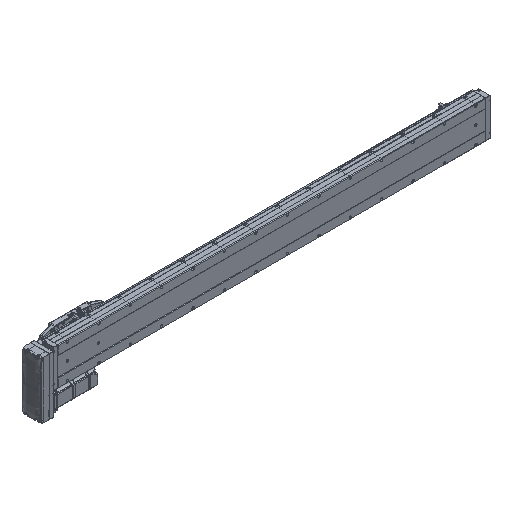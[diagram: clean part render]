
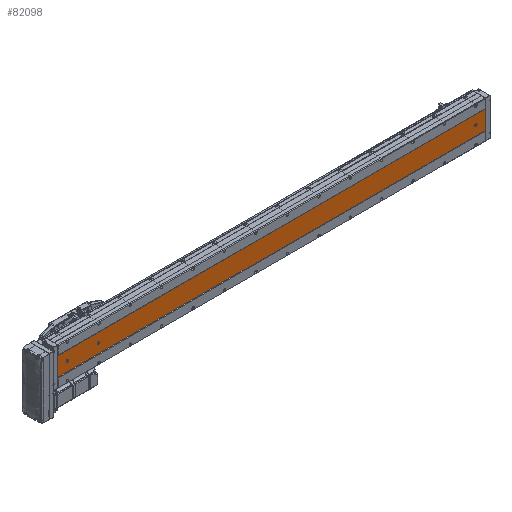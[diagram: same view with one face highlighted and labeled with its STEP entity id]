
A CAD part, isometric view. The second image highlights one B-rep face of the part: STEP entity #82098.
In plain terms, the highlighted planar face has unit normal (0, -1, 0).
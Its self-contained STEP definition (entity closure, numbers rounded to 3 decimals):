
#676 = AXIS2_PLACEMENT_3D ( 'NONE', #80723, #39069, #87794 ) ;
#1930 = VECTOR ( 'NONE', #6663, 1000. ) ;
#2571 = ORIENTED_EDGE ( 'NONE', *, *, #39493, .T. ) ;
#3707 = ORIENTED_EDGE ( 'NONE', *, *, #24783, .T. ) ;
#3738 = CARTESIAN_POINT ( 'NONE',  ( -43.392, -52.848, 30. ) ) ;
#3907 = CARTESIAN_POINT ( 'NONE',  ( -39.892, -52.848, 30. ) ) ;
#4165 = DIRECTION ( 'NONE',  ( 0., 0., -1. ) ) ;
#4316 = VERTEX_POINT ( 'NONE', #38648 ) ;
#6663 = DIRECTION ( 'NONE',  ( 1., 0., 0. ) ) ;
#7438 = EDGE_LOOP ( 'NONE', ( #82156, #87655, #84607, #41708, #58474 ) ) ;
#8071 = EDGE_CURVE ( 'NONE', #4316, #53538, #81423, .T. ) ;
#9662 = CARTESIAN_POINT ( 'NONE',  ( -69.892, -52.848, 1361. ) ) ;
#10815 = AXIS2_PLACEMENT_3D ( 'NONE', #13314, #35318, #84346 ) ;
#11471 = VERTEX_POINT ( 'NONE', #29120 ) ;
#12922 = ORIENTED_EDGE ( 'NONE', *, *, #51131, .T. ) ;
#13314 = CARTESIAN_POINT ( 'NONE',  ( -39.892, -52.848, 30. ) ) ;
#13336 = PLANE ( 'NONE',  #61001 ) ;
#13715 = AXIS2_PLACEMENT_3D ( 'NONE', #32758, #33064, #54350 ) ;
#13800 = ORIENTED_EDGE ( 'NONE', *, *, #59529, .F. ) ;
#14351 = CARTESIAN_POINT ( 'NONE',  ( -39.892, -52.848, 1231. ) ) ;
#14449 = DIRECTION ( 'NONE',  ( 0., 0., 1. ) ) ;
#15313 = AXIS2_PLACEMENT_3D ( 'NONE', #3907, #31115, #45435 ) ;
#16682 = DIRECTION ( 'NONE',  ( 0., 0., -1. ) ) ;
#17455 = FACE_BOUND ( 'NONE', #77035, .T. ) ;
#17932 = VERTEX_POINT ( 'NONE', #86795 ) ;
#18195 = CARTESIAN_POINT ( 'NONE',  ( -39.892, -52.848, 1234.5 ) ) ;
#19374 = CARTESIAN_POINT ( 'NONE',  ( -9.892, -52.848, 1361. ) ) ;
#19539 = DIRECTION ( 'NONE',  ( 0., 0., 1. ) ) ;
#19546 = AXIS2_PLACEMENT_3D ( 'NONE', #89236, #61453, #48427 ) ;
#20873 = CIRCLE ( 'NONE', #35554, 3.5 ) ;
#20987 = VERTEX_POINT ( 'NONE', #67178 ) ;
#22679 = LINE ( 'NONE', #48527, #1930 ) ;
#23884 = VERTEX_POINT ( 'NONE', #84745 ) ;
#24783 = EDGE_CURVE ( 'NONE', #23884, #54787, #82243, .T. ) ;
#26210 = EDGE_CURVE ( 'NONE', #17932, #79658, #63406, .T. ) ;
#27907 = CARTESIAN_POINT ( 'NONE',  ( -43.392, -52.848, 1361. ) ) ;
#28012 = VECTOR ( 'NONE', #16682, 1000. ) ;
#28403 = DIRECTION ( 'NONE',  ( 0., 1., 0. ) ) ;
#29120 = CARTESIAN_POINT ( 'NONE',  ( -43.392, -52.848, 32. ) ) ;
#29377 = FACE_BOUND ( 'NONE', #84622, .T. ) ;
#29797 = LINE ( 'NONE', #82041, #64681 ) ;
#31115 = DIRECTION ( 'NONE',  ( 0., 1., 0. ) ) ;
#32758 = CARTESIAN_POINT ( 'NONE',  ( -39.892, -52.848, 1231. ) ) ;
#33007 = DIRECTION ( 'NONE',  ( 0., 1., 0. ) ) ;
#33064 = DIRECTION ( 'NONE',  ( 0., 1., 0. ) ) ;
#33989 = CARTESIAN_POINT ( 'NONE',  ( -69.892, -52.848, 0. ) ) ;
#35318 = DIRECTION ( 'NONE',  ( 0., 1., 0. ) ) ;
#35554 = AXIS2_PLACEMENT_3D ( 'NONE', #14351, #28403, #41564 ) ;
#36189 = ORIENTED_EDGE ( 'NONE', *, *, #87734, .T. ) ;
#38648 = CARTESIAN_POINT ( 'NONE',  ( -69.892, -52.848, 1361. ) ) ;
#39069 = DIRECTION ( 'NONE',  ( 0., 1., 0. ) ) ;
#39334 = LINE ( 'NONE', #88045, #82912 ) ;
#39493 = EDGE_CURVE ( 'NONE', #53538, #20987, #22679, .T. ) ;
#40105 = EDGE_CURVE ( 'NONE', #79658, #11471, #74798, .T. ) ;
#41564 = DIRECTION ( 'NONE',  ( 0., 0., 1. ) ) ;
#41708 = ORIENTED_EDGE ( 'NONE', *, *, #40105, .T. ) ;
#42637 = FACE_BOUND ( 'NONE', #7438, .T. ) ;
#43691 = ORIENTED_EDGE ( 'NONE', *, *, #8071, .T. ) ;
#44366 = VECTOR ( 'NONE', #73908, 1000. ) ;
#45435 = DIRECTION ( 'NONE',  ( 0., 0., 1. ) ) ;
#47125 = CARTESIAN_POINT ( 'NONE',  ( -36.392, -52.848, 30. ) ) ;
#47242 = CARTESIAN_POINT ( 'NONE',  ( -69.892, -52.848, 1361. ) ) ;
#47730 = CARTESIAN_POINT ( 'NONE',  ( -36.392, -52.848, 32. ) ) ;
#48427 = DIRECTION ( 'NONE',  ( 0., 0., 1. ) ) ;
#48527 = CARTESIAN_POINT ( 'NONE',  ( -69.892, -52.848, 0. ) ) ;
#49548 = EDGE_CURVE ( 'NONE', #61312, #17932, #87397, .T. ) ;
#50926 = EDGE_LOOP ( 'NONE', ( #2571, #55330, #13800, #43691 ) ) ;
#51131 = EDGE_CURVE ( 'NONE', #80541, #52114, #74390, .T. ) ;
#52114 = VERTEX_POINT ( 'NONE', #18195 ) ;
#52273 = FACE_OUTER_BOUND ( 'NONE', #50926, .T. ) ;
#52828 = EDGE_CURVE ( 'NONE', #68473, #61312, #39334, .T. ) ;
#53538 = VERTEX_POINT ( 'NONE', #33989 ) ;
#53880 = CIRCLE ( 'NONE', #64188, 3.5 ) ;
#54350 = DIRECTION ( 'NONE',  ( 0., 0., 1. ) ) ;
#54500 = DIRECTION ( 'NONE',  ( 0., 1., 0. ) ) ;
#54787 = VERTEX_POINT ( 'NONE', #86756 ) ;
#55199 = DIRECTION ( 'NONE',  ( 1., 0., 0. ) ) ;
#55330 = ORIENTED_EDGE ( 'NONE', *, *, #87032, .F. ) ;
#55993 = CARTESIAN_POINT ( 'NONE',  ( -39.892, -52.848, 1227.5 ) ) ;
#58474 = ORIENTED_EDGE ( 'NONE', *, *, #63628, .T. ) ;
#59529 = EDGE_CURVE ( 'NONE', #4316, #61979, #29797, .T. ) ;
#61001 = AXIS2_PLACEMENT_3D ( 'NONE', #47242, #54500, #75819 ) ;
#61312 = VERTEX_POINT ( 'NONE', #47125 ) ;
#61453 = DIRECTION ( 'NONE',  ( 0., 1., 0. ) ) ;
#61979 = VERTEX_POINT ( 'NONE', #62819 ) ;
#62073 = EDGE_CURVE ( 'NONE', #52114, #80541, #20873, .T. ) ;
#62819 = CARTESIAN_POINT ( 'NONE',  ( -9.892, -52.848, 1361. ) ) ;
#63406 = CIRCLE ( 'NONE', #10815, 3.5 ) ;
#63628 = EDGE_CURVE ( 'NONE', #11471, #68473, #53880, .T. ) ;
#64188 = AXIS2_PLACEMENT_3D ( 'NONE', #75010, #33007, #19539 ) ;
#64681 = VECTOR ( 'NONE', #55199, 1000. ) ;
#67178 = CARTESIAN_POINT ( 'NONE',  ( -9.892, -52.848, 0. ) ) ;
#68473 = VERTEX_POINT ( 'NONE', #47730 ) ;
#69277 = CIRCLE ( 'NONE', #676, 3.5 ) ;
#70467 = VECTOR ( 'NONE', #14449, 1000. ) ;
#73908 = DIRECTION ( 'NONE',  ( 0., 0., -1. ) ) ;
#74390 = CIRCLE ( 'NONE', #13715, 3.5 ) ;
#74798 = LINE ( 'NONE', #27907, #70467 ) ;
#74838 = LINE ( 'NONE', #19374, #44366 ) ;
#75010 = CARTESIAN_POINT ( 'NONE',  ( -39.892, -52.848, 32. ) ) ;
#75819 = DIRECTION ( 'NONE',  ( 0., 0., 1. ) ) ;
#77035 = EDGE_LOOP ( 'NONE', ( #12922, #77953 ) ) ;
#77953 = ORIENTED_EDGE ( 'NONE', *, *, #62073, .T. ) ;
#79658 = VERTEX_POINT ( 'NONE', #3738 ) ;
#80541 = VERTEX_POINT ( 'NONE', #55993 ) ;
#80723 = CARTESIAN_POINT ( 'NONE',  ( -39.892, -52.848, 1331. ) ) ;
#81423 = LINE ( 'NONE', #9662, #28012 ) ;
#82041 = CARTESIAN_POINT ( 'NONE',  ( -69.892, -52.848, 1361. ) ) ;
#82098 = ADVANCED_FACE ( 'NONE', ( #42637, #17455, #29377, #52273 ), #13336, .F. ) ;
#82156 = ORIENTED_EDGE ( 'NONE', *, *, #52828, .T. ) ;
#82243 = CIRCLE ( 'NONE', #19546, 3.5 ) ;
#82912 = VECTOR ( 'NONE', #4165, 1000. ) ;
#84346 = DIRECTION ( 'NONE',  ( 0., 0., 1. ) ) ;
#84607 = ORIENTED_EDGE ( 'NONE', *, *, #26210, .T. ) ;
#84622 = EDGE_LOOP ( 'NONE', ( #36189, #3707 ) ) ;
#84745 = CARTESIAN_POINT ( 'NONE',  ( -39.892, -52.848, 1334.5 ) ) ;
#86756 = CARTESIAN_POINT ( 'NONE',  ( -39.892, -52.848, 1327.5 ) ) ;
#86795 = CARTESIAN_POINT ( 'NONE',  ( -39.892, -52.848, 26.5 ) ) ;
#87032 = EDGE_CURVE ( 'NONE', #61979, #20987, #74838, .T. ) ;
#87397 = CIRCLE ( 'NONE', #15313, 3.5 ) ;
#87655 = ORIENTED_EDGE ( 'NONE', *, *, #49548, .T. ) ;
#87734 = EDGE_CURVE ( 'NONE', #54787, #23884, #69277, .T. ) ;
#87794 = DIRECTION ( 'NONE',  ( 0., 0., 1. ) ) ;
#88045 = CARTESIAN_POINT ( 'NONE',  ( -36.392, -52.848, 1361. ) ) ;
#89236 = CARTESIAN_POINT ( 'NONE',  ( -39.892, -52.848, 1331. ) ) ;
